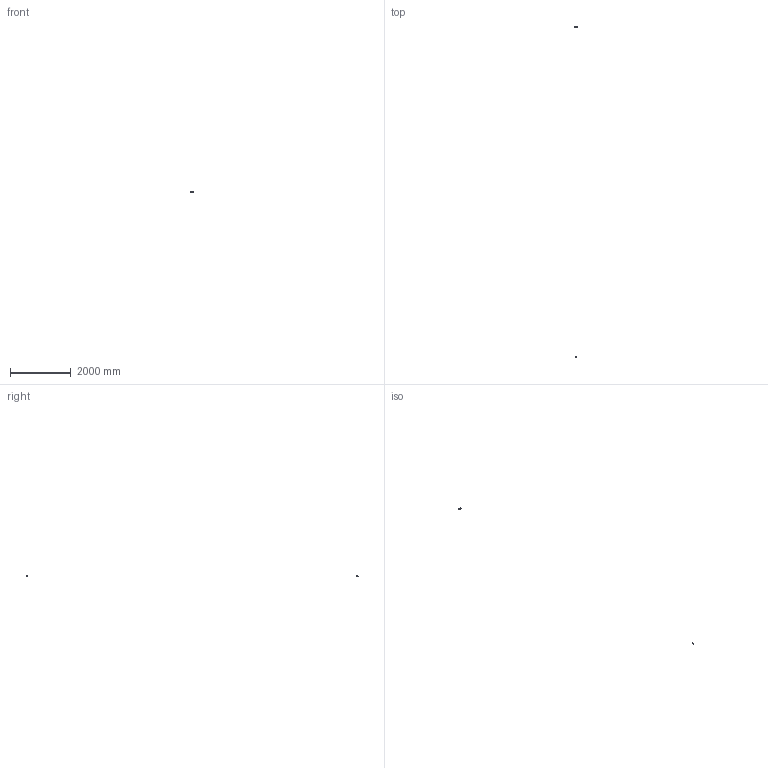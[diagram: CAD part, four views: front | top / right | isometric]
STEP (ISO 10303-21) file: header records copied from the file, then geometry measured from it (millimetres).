
FILE_DESCRIPTION(('Open CASCADE Model'),'2;1');
FILE_NAME('Open CASCADE Shape Model','2023-10-05T13:05:16',('Author'),( 'Open CASCADE'),'Open CASCADE STEP processor 6.8','Open CASCADE 6.8' ,'Unknown');
FILE_SCHEMA(('AUTOMOTIVE_DESIGN { 1 0 10303 214 1 1 1 1 }'));
Length unit declared in the file: millimetre
Products named in the file (1224): PCB; Board; MIKROBUS1; MikroBUS-SMD_rev02.ics(Large_Assembly_Mode); MikroBUS-SMD(2); Free-Models; MikrobusSocketBlack; housing_smt(1)okrenuti_natpisi_11_07_2017_sa_crnom_ivicom-865; housing_smt(1)okrenuti_natpisi_11_07_2017_sa_crnom_ivicom-866; housing_smt(1)okrenuti_natpisi_11_07_2017_sa_crnom_ivicom-867; housing_smt(1)okrenuti_natpisi_11_07_2017_sa_crnom_ivicom-868; housing_smt(1)okrenuti_natpisi_11_07_2017_sa_crnom_ivicom-869; housing_smt(1)okrenuti_natpisi_11_07_2017_sa_crnom_ivicom-870; housing_smt(1)okrenuti_natpisi_11_07_2017_sa_crnom_ivicom-871; housing_smt(1)okrenuti_natpisi_11_07_2017_sa_crnom_ivicom-872; housing_smt(1)okrenuti_natpisi_11_07_2017_sa_crnom_ivicom-873; housing_smt(1)okrenuti_natpisi_11_07_2017_sa_crnom_ivicom-874; housing_smt(1)okrenuti_natpisi_11_07_2017_sa_crnom_ivicom-875; housing_smt(1)okrenuti_natpisi_11_07_2017_sa_crnom_ivicom-876; housing_smt(1)okrenuti_natpisi_11_07_2017_sa_crnom_ivicom-877; housing_smt(1)okrenuti_natpisi_11_07_2017_sa_crnom_ivicom-878; housing_smt(1)okrenuti_natpisi_11_07_2017_sa_crnom_ivicom-879; housing_smt(1)okrenuti_natpisi_11_07_2017_sa_crnom_ivicom-880; housing_smt(1)okrenuti_natpisi_11_07_2017_sa_crnom_ivicom-881; housing_smt(1)okrenuti_natpisi_11_07_2017_sa_crnom_ivicom-882; housing_smt(1)okrenuti_natpisi_11_07_2017_sa_crnom_ivicom-883; housing_smt(1)okrenuti_natpisi_11_07_2017_sa_crnom_ivicom-884; housing_smt(1)okrenuti_natpisi_11_07_2017_sa_crnom_ivicom-885; housing_smt(1)okrenuti_natpisi_11_07_2017_sa_crnom_ivicom-886; housing_smt(1)okrenuti_natpisi_11_07_2017_sa_crnom_ivicom-887; housing_smt(1)okrenuti_natpisi_11_07_2017_sa_crnom_ivicom-888; housing_smt(1)okrenuti_natpisi_11_07_2017_sa_crnom_ivicom-889; housing_smt(1)okrenuti_natpisi_11_07_2017_sa_crnom_ivicom-890; housing_smt(1)okrenuti_natpisi_11_07_2017_sa_crnom_ivicom-891; housing_smt(1)okrenuti_natpisi_11_07_2017_sa_crnom_ivicom-892; NAUO1; housing_smt(1)okrenuti_natpisi_11_07_2017_sa_crnom_ivicom-617; housing_smt(1)okrenuti_natpisi_11_07_2017_sa_crnom_ivicom-801_rev01; housing_smt(1)okrenuti_natpisi_11_07_2017_sa_crnom_ivicom-860; housing_smt(1)okrenuti_natpisi_11_07_2017_sa_crnom_ivicom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
Assembly tree (1477 placements, depth 10):
  PCB
    Board
    MIKROBUS1
      MikroBUS-SMD_rev02.ics(Large_Assembly_Mode)
        MikroBUS-SMD(2)
          Free-Models
            MikrobusSocketBlack
              housing_smt(1)okrenuti_natpisi_11_07_2017_sa_crnom_ivicom-865
              housing_smt(1)okrenuti_natpisi_11_07_2017_sa_crnom_ivicom-866
              housing_smt(1)okrenuti_natpisi_11_07_2017_sa_crnom_ivicom-867
              housing_smt(1)okrenuti_natpisi_11_07_2017_sa_crnom_ivicom-868
              housing_smt(1)okrenuti_natpisi_11_07_2017_sa_crnom_ivicom-869
              housing_smt(1)okrenuti_natpisi_11_07_2017_sa_crnom_ivicom-870
              housing_smt(1)okrenuti_natpisi_11_07_2017_sa_crnom_ivicom-871
              housing_smt(1)okrenuti_natpisi_11_07_2017_sa_crnom_ivicom-872
              housing_smt(1)okrenuti_natpisi_11_07_2017_sa_crnom_ivicom-873
              housing_smt(1)okrenuti_natpisi_11_07_2017_sa_crnom_ivicom-874
              housing_smt(1)okrenuti_natpisi_11_07_2017_sa_crnom_ivicom-875
              housing_smt(1)okrenuti_natpisi_11_07_2017_sa_crnom_ivicom-876
              housing_smt(1)okrenuti_natpisi_11_07_2017_sa_crnom_ivicom-877
              housing_smt(1)okrenuti_natpisi_11_07_2017_sa_crnom_ivicom-878
              housing_smt(1)okrenuti_natpisi_11_07_2017_sa_crnom_ivicom-879
              housing_smt(1)okrenuti_natpisi_11_07_2017_sa_crnom_ivicom-880
              housing_smt(1)okrenuti_natpisi_11_07_2017_sa_crnom_ivicom-881
              housing_smt(1)okrenuti_natpisi_11_07_2017_sa_crnom_ivicom-882
              housing_smt(1)okrenuti_natpisi_11_07_2017_sa_crnom_ivicom-883
              housing_smt(1)okrenuti_natpisi_11_07_2017_sa_crnom_ivicom-884
              housing_smt(1)okrenuti_natpisi_11_07_2017_sa_crnom_ivicom-885
              housing_smt(1)okrenuti_natpisi_11_07_2017_sa_crnom_ivicom-886
              housing_smt(1)okrenuti_natpisi_11_07_2017_sa_crnom_ivicom-887
              housing_smt(1)okrenuti_natpisi_11_07_2017_sa_crnom_ivicom-888
              housing_smt(1)okrenuti_natpisi_11_07_2017_sa_crnom_ivicom-889
              housing_smt(1)okrenuti_natpisi_11_07_2017_sa_crnom_ivicom-890
              housing_smt(1)okrenuti_natpisi_11_07_2017_sa_crnom_ivicom-891
              housing_smt(1)okrenuti_natpisi_11_07_2017_sa_crnom_ivicom-892
              NAUO1
                housing_smt(1)okrenuti_natpisi_11_07_2017_sa_crnom_ivicom-892  x2
                housing_smt(1)okrenuti_natpisi_11_07_2017_sa_crnom_ivicom-617  x3
                housing_smt(1)okrenuti_natpisi_11_07_2017_sa_crnom_ivicom-801_rev01
                housing_smt(1)okrenuti_natpisi_11_07_2017_sa_crnom_ivicom-860  x2
                housing_smt(1)okrenuti_natpisi_11_07_2017_sa_crnom_ivicom-860  x2
                housing_smt(1)okrenuti_natpisi_11_07_2017_sa_crnom_ivicom
                housing_smt(1)okrenuti_natpisi_11_07_2017_sa_crnom_ivicom-1
                housing_smt(1)okrenuti_natpisi_11_07_2017_sa_crnom_ivicom-2
                housing_smt(1)okrenuti_natpisi_11_07_2017_sa_crnom_ivicom-3
                housing_smt(1)okrenuti_natpisi_11_07_2017_sa_crnom_ivicom-4
                housing_smt(1)okrenuti_natpisi_11_07_2017_sa_crnom_ivicom-5
                housing_smt(1)okrenuti_natpisi_11_07_2017_sa_crnom_ivicom-6
                housing_smt(1)okrenuti_natpisi_11_07_2017_sa_crnom_ivicom-7
                housing_smt(1)okrenuti_natpisi_11_07_2017_sa_crnom_ivicom-8
                housing_smt(1)okrenuti_natpisi_11_07_2017_sa_crnom_ivicom-9
                housing_smt(1)okrenuti_natpisi_11_07_2017_sa_crnom_ivicom-10
                housing_smt(1)okrenuti_natpisi_11_07_2017_sa_crnom_ivicom-11
                housing_smt(1)okrenuti_natpisi_11_07_2017_sa_crnom_ivicom-12
                housing_smt(1)okrenuti_natpisi_11_07_2017_sa_crnom_ivicom-13
                housing_smt(1)okrenuti_natpisi_11_07_2017_sa_crnom_ivicom-14
                housing_smt(1)okrenuti_natpisi_11_07_2017_sa_crnom_ivicom-15
                housing_smt(1)okrenuti_natpisi_11_07_2017_sa_crnom_ivicom-16
                housing_smt(1)okrenuti_natpisi_11_07_2017_sa_crnom_ivicom-17
                housing_smt(1)okrenuti_natpisi_11_07_2017_sa_crnom_ivicom-18
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Bounding box: 100 x 10967.92 x 19.82 mm (x, y, z)
Volume: 12232.1 mm3; surface area: 25050.9 mm2
Topology: 537 solids, 6521 shells, 17413 faces, 60851 edges, 50534 vertices
Faces by surface type: plane 11440, cylinder 2946, bspline 2319, sphere 438, cone 256, torus 10, extrusion 4
Full cylindrical faces by diameter (mm): 0.2 x1, 0.4 x4, 0.6 x2
Entity records: 210345 total; most frequent: CARTESIAN_POINT 53489, ORIENTED_EDGE 22736, DIRECTION 18815, EDGE_CURVE 13791, VERTEX_POINT 10632, VECTOR 6519, LINE 6517, B_SPLINE_CURVE_WITH_KNOTS 6269
